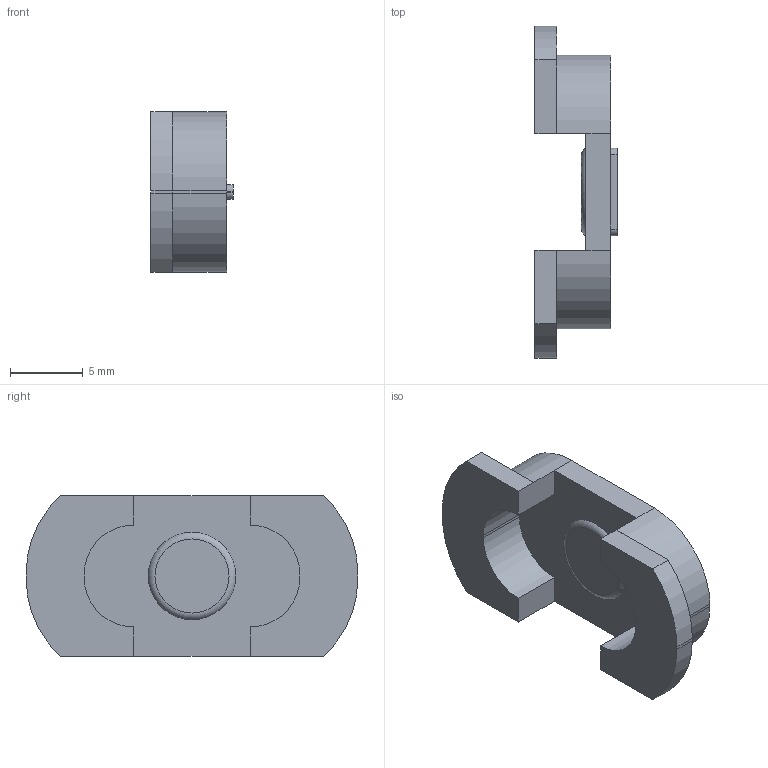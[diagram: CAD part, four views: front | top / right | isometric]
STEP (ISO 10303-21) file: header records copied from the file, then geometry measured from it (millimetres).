
FILE_DESCRIPTION(/* description */ (''),/* implementation_level */ '2;1');
FILE_NAME(/* name */ '03_Volume_Minus.step',/* time_stamp */ '2026-09-20T10:25:48-07:00',/* author */ (''),/* organization */ (''),/* preprocessor_version */ 'ST-DEVELOPER v20.2',/* originating_system */ 'Autodesk Translation Framework v15.15.0.0',/* authorisation */ '');
FILE_SCHEMA (('AUTOMOTIVE_DESIGN { 1 0 10303 214 3 1 1 }'));
Length unit declared in the file: millimetre
Products named in the file (1): 2026-09-20-10-25-48-515
Bounding box: 5.65 x 22.8 x 11 mm (x, y, z)
Volume: 595.9 mm3; surface area: 804.2 mm2
Topology: 1 solids, 1 shells, 45 faces, 115 edges, 74 vertices
Faces by surface type: plane 28, cylinder 16, torus 1
Entity records: 1393 total; most frequent: DIRECTION 242, CARTESIAN_POINT 235, ORIENTED_EDGE 230, EDGE_CURVE 115, AXIS2_PLACEMENT_3D 81, LINE 80, VECTOR 80, VERTEX_POINT 74
